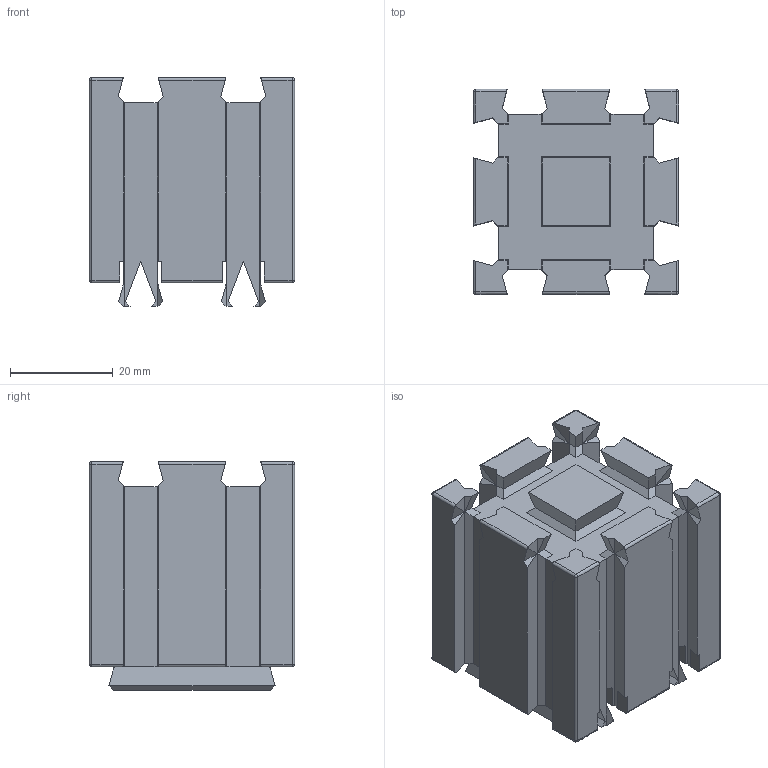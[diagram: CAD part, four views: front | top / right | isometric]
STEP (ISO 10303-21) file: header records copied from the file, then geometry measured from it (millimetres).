
FILE_DESCRIPTION(/* description */ (''),/* implementation_level */ '2;1');
FILE_NAME(/* name */ 'C:/Users/priba/Downloads/BrickDouble2x2x2mf.step',/* time_stamp */ '2022-04-03T23:45:12+02:00',/* author */ (''),/* organization */ (''),/* preprocessor_version */ 'ST-DEVELOPER v18.1',/* originating_system */ 'Autodesk Translation Framework v10.13.0.1454',/* authorisation */ '');
FILE_SCHEMA (('AUTOMOTIVE_DESIGN { 1 0 10303 214 3 1 1 }'));
Length unit declared in the file: millimetre
Products named in the file (2): BrickDouble2x2x2mf; Brick 2x2x2 itself
Assembly tree (1 placements, depth 2):
  BrickDouble2x2x2mf
    Brick 2x2x2 itself
Bounding box: 40 x 40 x 44.61 mm (x, y, z)
Volume: 16483.6 mm3; surface area: 25318.6 mm2
Topology: 1 solids, 1 shells, 481 faces, 1164 edges, 688 vertices
Faces by surface type: plane 445, cylinder 28, sphere 8
Entity records: 13511 total; most frequent: CARTESIAN_POINT 2336, ORIENTED_EDGE 2328, DIRECTION 2204, EDGE_CURVE 1164, LINE 1092, VECTOR 1092, VERTEX_POINT 688, AXIS2_PLACEMENT_3D 556
